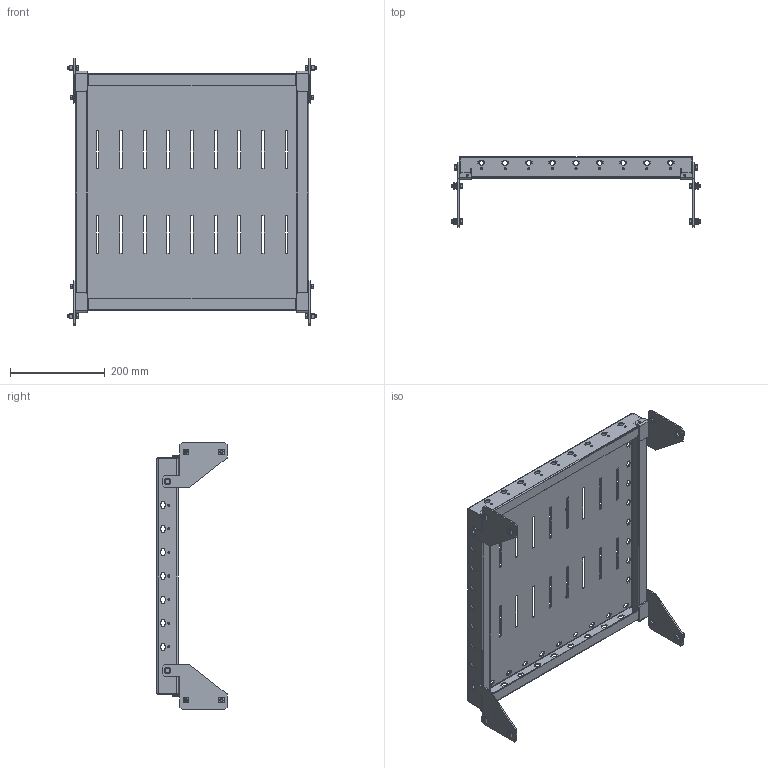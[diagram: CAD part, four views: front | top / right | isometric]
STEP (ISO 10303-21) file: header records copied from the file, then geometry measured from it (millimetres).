
FILE_DESCRIPTION (( 'STEP AP203' ), '1' );
FILE_NAME ('R5RFE66.STEP', '2022-06-29T08:40:18', ( '' ), ( '' ), 'SwSTEP 2.0', 'SolidWorks 2020', '' );
FILE_SCHEMA (( 'CONFIG_CONTROL_DESIGN' ));
Length unit declared in the file: millimetre
Products named in the file (7): M6x16 DIN 6921 cl.8,8 Zinc_thread; M6 A3400002 Zinc_thread; RB.2364.00.00.0_03; Ì6 D87181 Zinc_In a tightened position (1.5 mm); RB.1704.00.00.0_- 01; RB.1704.00.00.0_-00; R5RFE66
Assembly tree (29 placements, depth 2):
  R5RFE66
    RB.2364.00.00.0_03
    RB.1704.00.00.0_- 01  x2
    M6 A3400002 Zinc_thread  x8
    M6x16 DIN 6921 cl.8,8 Zinc_thread  x12
    RB.1704.00.00.0_-00  x2
    Ì6 D87181 Zinc_In a tightened position (1.5 mm)  x4
Bounding box: 526 x 148.6 x 565 mm (x, y, z)
Volume: 874822.2 mm3; surface area: 868212.1 mm2
Topology: 29 solids, 29 shells, 4922 faces, 13480 edges, 8564 vertices
Faces by surface type: cylinder 1948, plane 1586, cone 1076, bspline 216, torus 96
Entity records: 70226 total; most frequent: CARTESIAN_POINT 14329, DIRECTION 11711, ORIENTED_EDGE 11516, EDGE_CURVE 5758, AXIS2_PLACEMENT_3D 4211, VERTEX_POINT 3751, LINE 3289, VECTOR 3289
